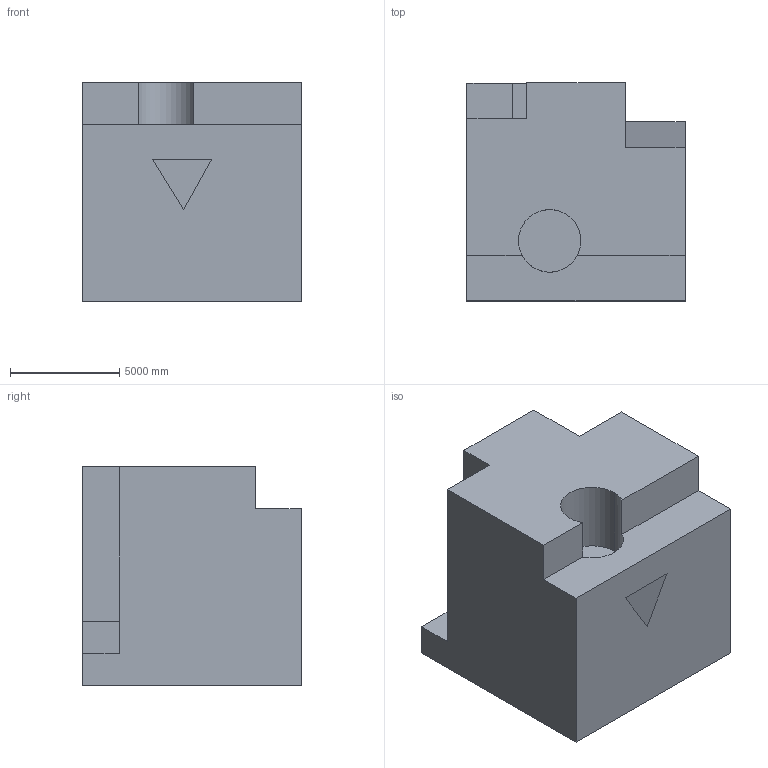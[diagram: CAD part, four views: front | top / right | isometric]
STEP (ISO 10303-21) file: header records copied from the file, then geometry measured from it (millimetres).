
FILE_DESCRIPTION (( 'STEP AP203' ), '1' );
FILE_NAME ('632.STEP', '2022-07-29T12:12:20', ( 'user' ), ( '' ), 'SwSTEP 2.0', 'SolidWorks 2021', '' );
FILE_SCHEMA (( 'CONFIG_CONTROL_DESIGN' ));
Length unit declared in the file: centimetre
Products named in the file (1): 632
Bounding box: 10000 x 10000 x 10000 mm (x, y, z)
Volume: 783576982386.1 mm3; surface area: 711017007.3 mm2
Topology: 1 solids, 1 shells, 31 faces, 81 edges, 54 vertices
Faces by surface type: plane 29, cylinder 2
Entity records: 1018 total; most frequent: CARTESIAN_POINT 167, ORIENTED_EDGE 162, DIRECTION 151, EDGE_CURVE 81, VECTOR 75, LINE 75, VERTEX_POINT 54, AXIS2_PLACEMENT_3D 38
